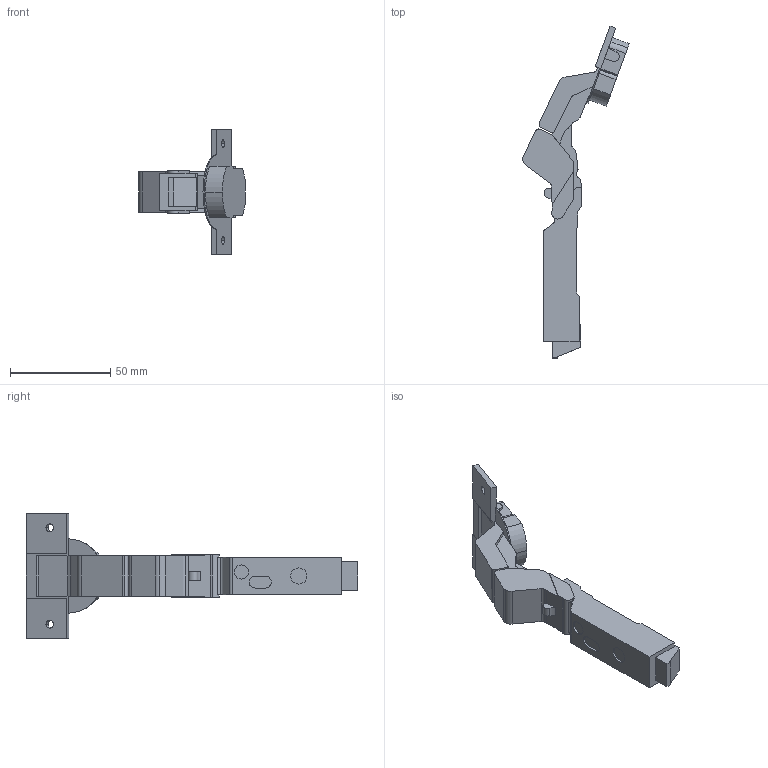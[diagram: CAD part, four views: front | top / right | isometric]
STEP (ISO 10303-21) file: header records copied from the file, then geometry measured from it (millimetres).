
FILE_DESCRIPTION (( 'STEP AP214' ), '1' );
FILE_NAME ('Scharnier-Mirro-M9_M-BB_offen-110°.STEP', '2014-02-21T08:44:23', ( '' ), ( '' ), 'SwSTEP 2.0', 'SolidWorks 2013', '' );
FILE_SCHEMA (( 'AUTOMOTIVE_DESIGN' ));
Length unit declared in the file: millimetre
Products named in the file (1): Scharnier-Mirro-M9_M-BB_offen-110°
Bounding box: 52.92 x 165.23 x 62 mm (x, y, z)
Volume: 55478.7 mm3; surface area: 16696 mm2
Topology: 1 solids, 1 shells, 162 faces, 464 edges, 308 vertices
Faces by surface type: plane 106, cylinder 55, bspline 1
Entity records: 5337 total; most frequent: CARTESIAN_POINT 948, ORIENTED_EDGE 928, DIRECTION 902, EDGE_CURVE 464, VECTOR 346, LINE 346, VERTEX_POINT 308, AXIS2_PLACEMENT_3D 278
